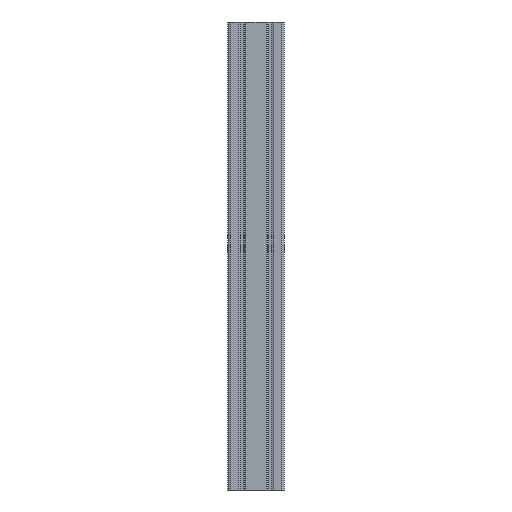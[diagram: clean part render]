
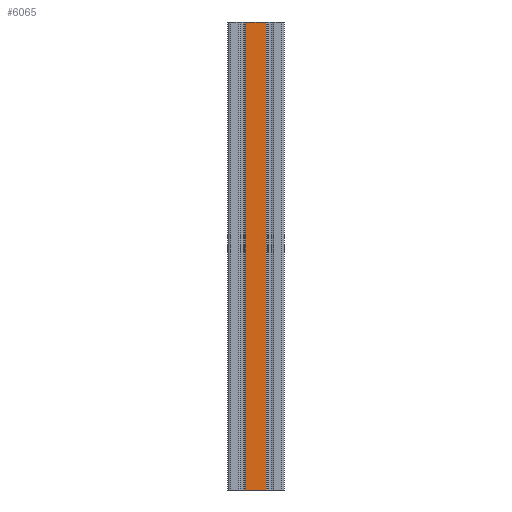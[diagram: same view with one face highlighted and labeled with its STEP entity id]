
A CAD part, left-side view. The second image highlights one B-rep face of the part: STEP entity #6065.
In plain terms, the highlighted planar face has unit normal (-1, 0, 0).
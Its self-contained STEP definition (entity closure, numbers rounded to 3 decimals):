
#54 = VERTEX_POINT ( 'NONE', #1357 ) ;
#86 = VERTEX_POINT ( 'NONE', #1394 ) ;
#88 = EDGE_CURVE ( 'NONE', #54, #86, #1391, .T. ) ;
#539 = EDGE_CURVE ( 'NONE', #691, #699, #2330, .T. ) ;
#691 = VERTEX_POINT ( 'NONE', #2451 ) ;
#699 = VERTEX_POINT ( 'NONE', #2526 ) ;
#1357 = CARTESIAN_POINT ( 'NONE',  ( -17075.141, -14096.337, 500. ) ) ;
#1389 = DIRECTION ( 'NONE',  ( 0., -1., 0. ) ) ;
#1390 = VECTOR ( 'NONE', #1389, 1000. ) ;
#1391 = LINE ( 'NONE', #1401, #1390 ) ;
#1394 = CARTESIAN_POINT ( 'NONE',  ( -17075.141, -14117.987, 500. ) ) ;
#1401 = CARTESIAN_POINT ( 'NONE',  ( -17075.141, -14096.337, 500. ) ) ;
#2320 = DIRECTION ( 'NONE',  ( 0., -1., 0. ) ) ;
#2321 = VECTOR ( 'NONE', #2320, 1000. ) ;
#2329 = CARTESIAN_POINT ( 'NONE',  ( -17075.141, -14096.337, 0. ) ) ;
#2330 = LINE ( 'NONE', #2329, #2321 ) ;
#2451 = CARTESIAN_POINT ( 'NONE',  ( -17075.141, -14096.337, 0. ) ) ;
#2526 = CARTESIAN_POINT ( 'NONE',  ( -17075.141, -14117.987, 0. ) ) ;
#4851 = FACE_OUTER_BOUND ( 'NONE', #6068, .T. ) ;
#4856 = PLANE ( 'NONE',  #4898 ) ;
#4883 = DIRECTION ( 'NONE',  ( 0., 0., -1. ) ) ;
#4884 = VECTOR ( 'NONE', #4883, 1000. ) ;
#4885 = CARTESIAN_POINT ( 'NONE',  ( -17075.141, -14117.987, 500. ) ) ;
#4889 = DIRECTION ( 'NONE',  ( 0., 0., -1. ) ) ;
#4896 = LINE ( 'NONE', #4885, #4884 ) ;
#4898 = AXIS2_PLACEMENT_3D ( 'NONE', #4901, #4902, #4889 ) ;
#4901 = CARTESIAN_POINT ( 'NONE',  ( -17075.141, -14096.337, 500. ) ) ;
#4902 = DIRECTION ( 'NONE',  ( 1., 0., 0. ) ) ;
#4923 = DIRECTION ( 'NONE',  ( 0., 0., -1. ) ) ;
#4924 = VECTOR ( 'NONE', #4923, 1000. ) ;
#4927 = LINE ( 'NONE', #4933, #4924 ) ;
#4933 = CARTESIAN_POINT ( 'NONE',  ( -17075.141, -14096.337, 500. ) ) ;
#5849 = ORIENTED_EDGE ( 'NONE', *, *, #6069, .F. ) ;
#6065 = ADVANCED_FACE ( 'NONE', ( #4851 ), #4856, .F. ) ;
#6068 = EDGE_LOOP ( 'NONE', ( #6261, #5849, #6256, #6255 ) ) ;
#6069 = EDGE_CURVE ( 'NONE', #86, #699, #4896, .T. ) ;
#6089 = EDGE_CURVE ( 'NONE', #54, #691, #4927, .T. ) ;
#6255 = ORIENTED_EDGE ( 'NONE', *, *, #6089, .T. ) ;
#6256 = ORIENTED_EDGE ( 'NONE', *, *, #88, .F. ) ;
#6261 = ORIENTED_EDGE ( 'NONE', *, *, #539, .T. ) ;
